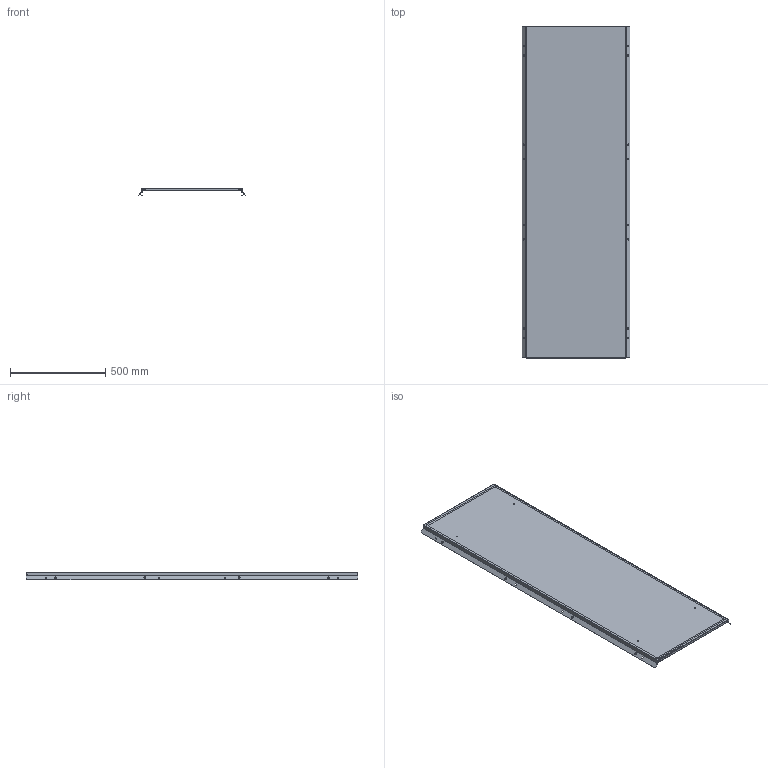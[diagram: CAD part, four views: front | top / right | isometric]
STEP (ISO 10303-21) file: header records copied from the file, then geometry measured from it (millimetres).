
FILE_DESCRIPTION (( 'STEP AP203' ), '1' );
FILE_NAME ('MA1.200.060618.10.00 AleSta-PR186 Ïàíåëü çàäíÿÿ, äëÿ øêàôîâ ALESTA, 1800 x 600.STEP', '2025-02-19T15:08:32', ( '' ), ( '' ), 'SwSTEP 2.0', 'SolidWorks 2021', '' );
FILE_SCHEMA (( 'CONFIG_CONTROL_DESIGN' ));
Length unit declared in the file: millimetre
Products named in the file (6): Óïëîòíèòåëü ïàíåëè íèæíåé_‚=1800; MA1.200.060620.11.00 Ïàíåëü çàäíÿÿ, äëÿ øêàôîâ AleSta, 2000x600_1800å600; MA1.200.060620.11.01 Ïîëîòíî çàäíåé ïàíåëè 2000õ600_1800å600; Øïèëüêà Ì6õ12_˜¯¨«ìª  Œ6å12; Âèíò ñàìîíàðåçàþùèé ñ ïîòàéíîé ãîëîâêîé Ì5x16 DIN 7500 M TORX, êëàññ ïðî÷íîñòè 8.8, îöèíêîâàííàÿ ñòàëü_Œ5å16; MA1.200.060618.10.00 AleSta-PR186  Ïàíåëü çàäíÿÿ, äëÿ øêàôîâ ALESTA, 1800 x 600
Assembly tree (15 placements, depth 3):
  MA1.200.060618.10.00 AleSta-PR186  Ïàíåëü çàäíÿÿ, äëÿ øêàôîâ ALESTA, 1800 x 600
    MA1.200.060620.11.00 Ïàíåëü çàäíÿÿ, äëÿ øêàôîâ AleSta, 2000x600_1800å600
      MA1.200.060620.11.01 Ïîëîòíî çàäíåé ïàíåëè 2000õ600_1800å600
      Óïëîòíèòåëü ïàíåëè íèæíåé_‚=1800
      Øïèëüêà Ì6õ12_˜¯¨«ìª  Œ6å12  x4
    Âèíò ñàìîíàðåçàþùèé ñ ïîòàéíîé ãîëîâêîé Ì5x16 DIN 7500 M TORX, êëàññ ïðî÷íîñòè 8.8, îöèíêîâàííàÿ ñòàëü_Œ5å16  x8
Bounding box: 565.31 x 1745 x 41.7 mm (x, y, z)
Volume: 1380652.9 mm3; surface area: 2339629.5 mm2
Topology: 14 solids, 14 shells, 544 faces, 1352 edges, 864 vertices
Faces by surface type: cylinder 304, plane 184, cone 40, bspline 8, torus 8
Entity records: 7885 total; most frequent: CARTESIAN_POINT 1623, DIRECTION 1165, ORIENTED_EDGE 1074, EDGE_CURVE 537, AXIS2_PLACEMENT_3D 424, VERTEX_POINT 332, LINE 317, VECTOR 317
